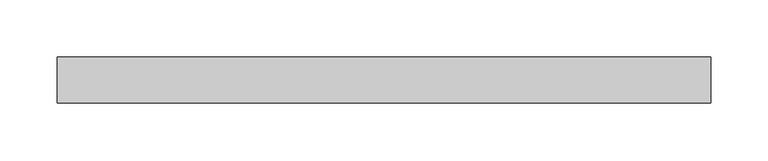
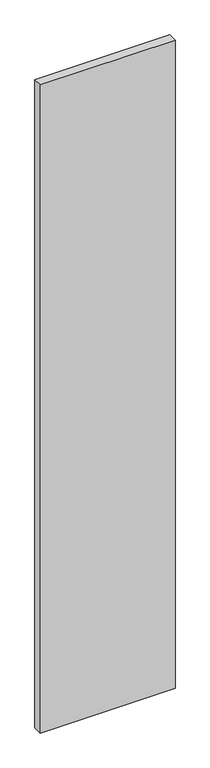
"""IFC4 building model written with IfcOpenShell, lengths in millimetres: plate geometry, Lod 200 Regolare 800 Vertical : Azuro."""

from ifc_helpers import new_model, si_unit, origin, origin_with_axes, place, context, project, spatial, polyline, outline, extrude, source, transform, mapped, element, save


def plate_eb6396ea(model_context):
    return source(origin(), model_context, "Body", "SweptSolid", [
        extrude(outline(polyline([(285.0, -40.0), (-285.0, -40.0), (-285.0, 0.0), (285.0, 0.0), (285.0, -40.0)])), origin_with_axes(), (0.0, 0.0, 1.0), 2900.0),
    ])


if __name__ == "__main__":
    model = new_model("IFC4")
    model_context = context("Model", 3, world=origin())
    ifc_project = project(units=[si_unit("LENGTHUNIT", "METRE", prefix="MILLI")], contexts=[model_context])
    site = spatial("IfcSite", under=ifc_project)
    building = spatial("IfcBuilding", under=site)
    placement = place(None, origin())
    plate_shape = plate_eb6396ea(model_context)
    element("IfcPlate", 1, ObjectType="Lod 200 Regolare 800 Vertical : Azuro", at=placement, inside=building, context=model_context, shape_type="MappedRepresentation", body=[
        mapped(plate_shape, transform((0.0, 0.0, 0.0), x_axis=(1.0, 0.0, 0.0), y_axis=(0.0, 1.0, 0.0), z_axis=(0.0, 0.0, 1.0))),
    ])
    save(model, "model.ifc")
